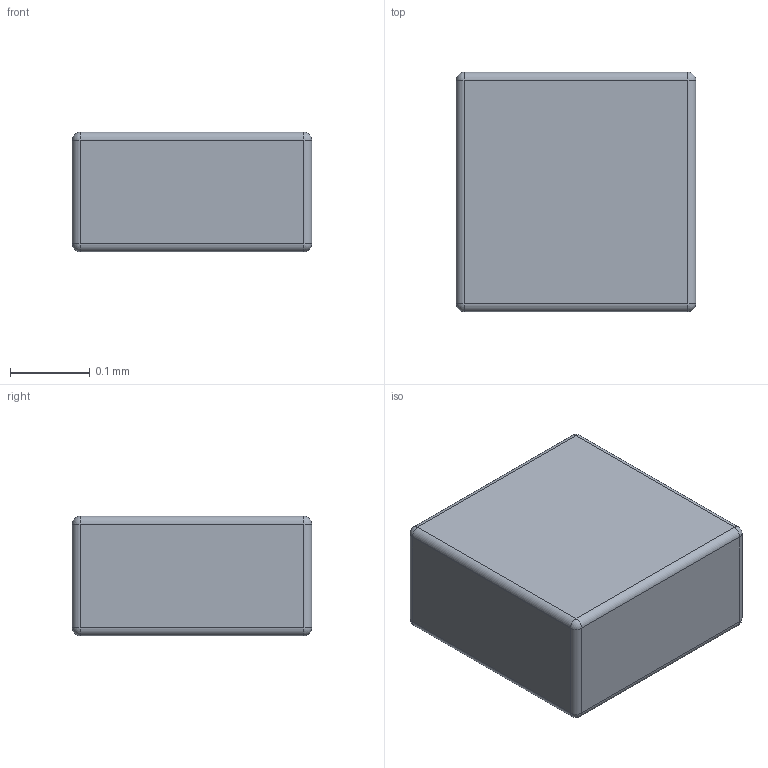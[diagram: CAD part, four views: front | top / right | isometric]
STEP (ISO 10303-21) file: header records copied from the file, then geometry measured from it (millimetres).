
FILE_DESCRIPTION(/* description */ ('STEP AP242 Edition 2','CAx-IF Rec.Pracs.---Representation and Presentation of Product Manufacturing Information (PMI)---4.0---2014-10-13','CAx-IF Rec.Pracs.---3D Tessellated Geometry---0.4---2014-09-14','2;1','CAx-IF Rec.Pracs.---User Defined Attributes---1.5---2016-08-15'),/* implementation_level */ '2;1');
FILE_NAME(/* name */ 'Assembly 1 - SOD-523_L1.2-W0.8-LS1.6-BI~SOD-523_L1.2-W0.8-LS1.6-BI~nxQB',/* time_stamp */ '2026-04-02T09:55:21Z',/* author */ (''),/* organization */ (''),/* preprocessor_version */ 'ST-DEVELOPER v20',/* originating_system */ 'ONSHAPE BY PTC INC, 1.212',/* authorisation */ ' ');
FILE_SCHEMA (('AP242_MANAGED_MODEL_BASED_3D_ENGINEERING_MIM_LF { 1 0 10303 442 3 1 4 }'));
Length unit declared in the file: metre
Products named in the file (1): SOD-523_L1.2-W0.8-LS1.6-BI~SOD-523_L1.2-W0.8-LS1.6-BI~nxQB
Bounding box: 0.3 x 0.3 x 0.15 mm (x, y, z)
Volume: 0 mm3; surface area: 0.3 mm2
Topology: 1 solids, 1 shells, 26 faces, 56 edges, 24 vertices
Faces by surface type: cylinder 12, sphere 8, plane 6
Entity records: 829 total; most frequent: DIRECTION 126, CARTESIAN_POINT 99, ORIENTED_EDGE 96, AXIS2_PLACEMENT_3D 51, EDGE_CURVE 48, PRESENTATION_STYLE_ASSIGNMENT 27, SURFACE_STYLE_USAGE 27, SURFACE_SIDE_STYLE 27
